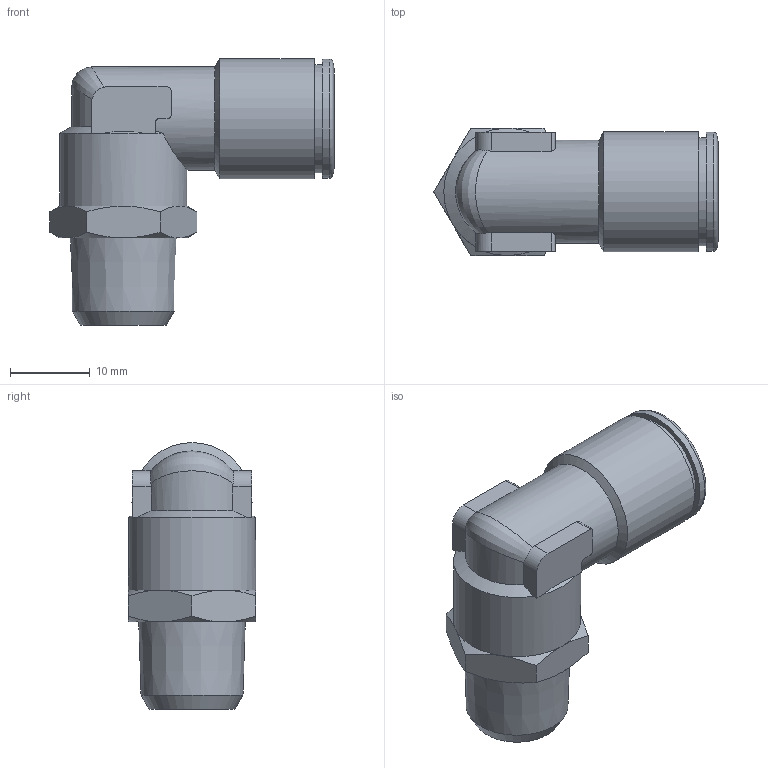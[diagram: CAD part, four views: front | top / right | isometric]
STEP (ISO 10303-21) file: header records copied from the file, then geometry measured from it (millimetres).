
FILE_DESCRIPTION(/* description */ (''),/* implementation_level */ '2;1');
FILE_NAME(/* name */ '202258-ES_STX022K_10_R14_20.06.16',/* time_stamp */ '2016-06-20T08:39:25+02:00',/* author */ (''),/* organization */ (''),/* preprocessor_version */ 'ST-DEVELOPER v16.5',/* originating_system */ 'HiCAD 2016 2101.0 Build 254',/* authorisation */ '');
FILE_SCHEMA (('AUTOMOTIVE_DESIGN { 1 0 10303 214 1 1 1 1 }'));
Length unit declared in the file: millimetre
Products named in the file (4): Root; 214636-1; R202208-ES-N; DR10-N
Assembly tree (3 placements, depth 2):
  Root
    214636-1
    R202208-ES-N
    DR10-N
Bounding box: 35.74 x 16 x 33.55 mm (x, y, z)
Volume: 4823.1 mm3; surface area: 5724.2 mm2
Topology: 3 solids, 3 shells, 94 faces, 217 edges, 134 vertices
Faces by surface type: plane 34, cone 32, cylinder 26, bspline 1, torus 1
Full cylindrical faces by diameter (mm): 8 x2, 10.2 x2, 12.2 x2, 12.3 x1, 13 x2, 13.5 x2, 13.6 x1, 13.7 x1, 15 x1, 15.1 x1, 16 x1
Entity records: 6386 total; most frequent: CARTESIAN_POINT 2586, DIRECTION 458, PRESENTATION_STYLE_ASSIGNMENT 353, COLOUR_RGB 351, DRAUGHTING_PRE_DEFINED_CURVE_FONT 350, CURVE_STYLE 350, OVER_RIDING_STYLED_ITEM 350, ORIENTED_EDGE 350
